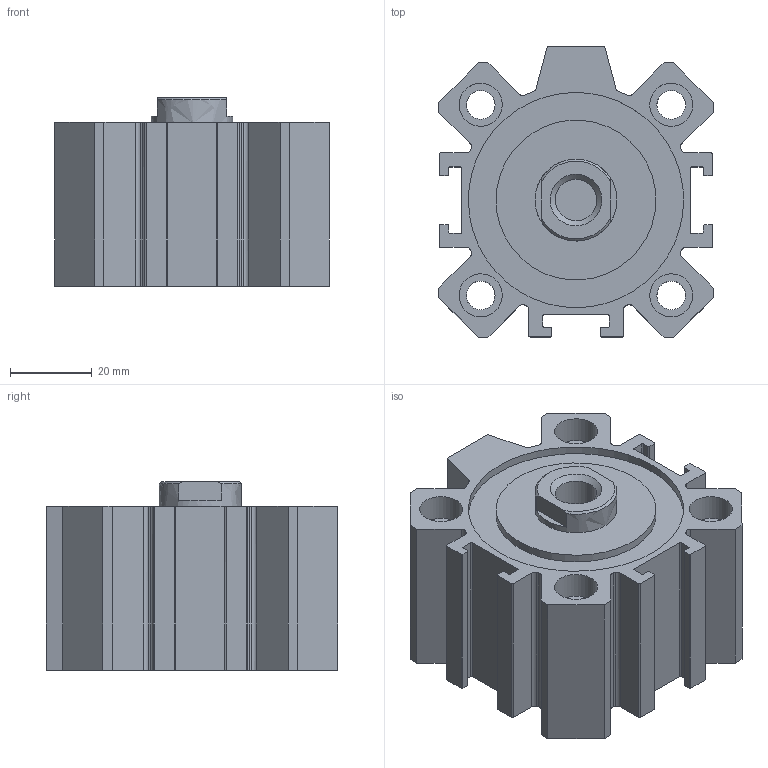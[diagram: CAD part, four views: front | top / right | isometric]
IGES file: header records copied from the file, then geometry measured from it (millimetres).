
Global section: file name: 1512_50_0005; native system: Autodesk Inventor 2014; preprocessor: unknown; author: A. Manieri; date: 20160824.134111; units: millimetre
Bounding box: 67 x 71 x 46 mm (x, y, z)
Volume: 126773.2 mm3; surface area: 42854 mm2
Topology: 2 solids, 2 shells, 164 faces, 438 edges, 296 vertices
Faces by surface type: bspline 164
